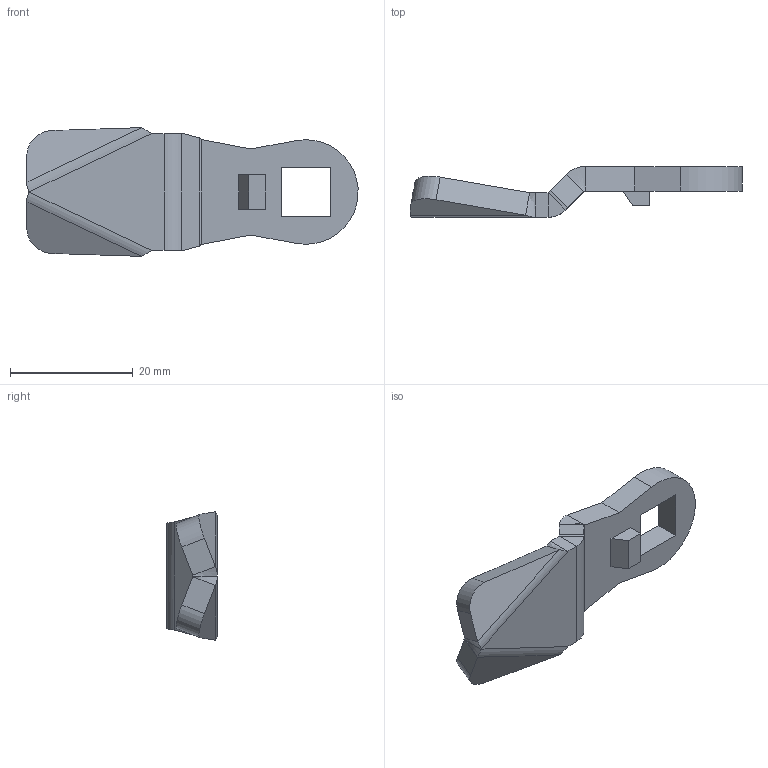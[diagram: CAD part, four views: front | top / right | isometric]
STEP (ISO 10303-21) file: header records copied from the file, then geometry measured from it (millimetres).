
FILE_DESCRIPTION((''),'2;1');
FILE_NAME('C:\Documents and Settings\Administrator\My Documents\Andys Backup Data\ANDY''S INVENTOR\INVENTOR LIBRARIES\MINITEC INVENTOR LIBRARIES\HANDLES LOCKS STOPS\21.1093_20 CAM-4.stp','2010-10-19T15:20:20',('Administrator'),(''),'Autodesk Inventor 2009','Autodesk Inventor 2009','');
FILE_SCHEMA(('CONFIG_CONTROL_DESIGN'));
Length unit declared in the file: millimetre
Products named in the file (1): 21.1093_20 CAM-4
Bounding box: 54 x 8.26 x 20.94 mm (x, y, z)
Volume: 3508.7 mm3; surface area: 2504.3 mm2
Topology: 1 solids, 1 shells, 54 faces, 122 edges, 72 vertices
Faces by surface type: plane 40, cylinder 8, bspline 6
Entity records: 1567 total; most frequent: CARTESIAN_POINT 379, ORIENTED_EDGE 244, DIRECTION 220, EDGE_CURVE 122, VECTOR 106, LINE 106, VERTEX_POINT 72, EDGE_LOOP 58
